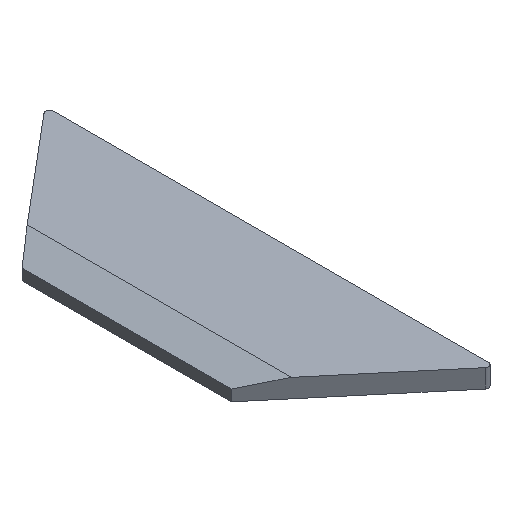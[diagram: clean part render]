
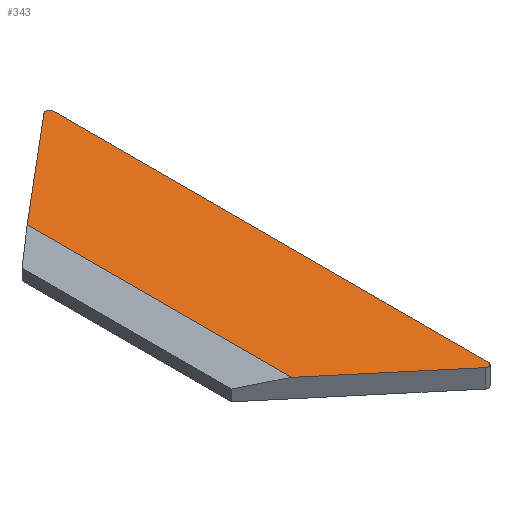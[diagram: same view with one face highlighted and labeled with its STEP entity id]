
A CAD part, isometric view. The second image highlights one B-rep face of the part: STEP entity #343.
In plain terms, the highlighted planar face has unit normal (0, 0, 1).
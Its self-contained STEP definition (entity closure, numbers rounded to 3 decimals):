
#32 = PLANE('',#33);
#33 = AXIS2_PLACEMENT_3D('',#34,#35,#36);
#34 = CARTESIAN_POINT('',(-19.,-10.,-150.5));
#35 = DIRECTION('',(0.643,0.766,-0.));
#36 = DIRECTION('',(0.766,-0.643,0.));
#83 = VERTEX_POINT('',#84);
#84 = CARTESIAN_POINT('',(-14.,-14.2,-148.5));
#97 = PLANE('',#98);
#98 = AXIS2_PLACEMENT_3D('',#99,#100,#101);
#99 = CARTESIAN_POINT('',(-20.,0.,-149.9));
#100 = DIRECTION('',(-0.227,0.,0.974));
#101 = DIRECTION('',(0.974,0.,0.227));
#108 = EDGE_CURVE('',#83,#109,#111,.T.);
#109 = VERTEX_POINT('',#110);
#110 = CARTESIAN_POINT('',(-2.657,-23.726,-148.5));
#111 = SURFACE_CURVE('',#112,(#116,#123),.PCURVE_S1.);
#112 = LINE('',#113,#114);
#113 = CARTESIAN_POINT('',(-19.,-10.,-148.5));
#114 = VECTOR('',#115,1.);
#115 = DIRECTION('',(0.766,-0.643,0.));
#116 = PCURVE('',#32,#117);
#117 = DEFINITIONAL_REPRESENTATION('',(#118),#122);
#118 = LINE('',#119,#120);
#119 = CARTESIAN_POINT('',(0.,-2.));
#120 = VECTOR('',#121,1.);
#121 = DIRECTION('',(1.,0.));
#122 = ( GEOMETRIC_REPRESENTATION_CONTEXT(2) 
PARAMETRIC_REPRESENTATION_CONTEXT() REPRESENTATION_CONTEXT('2D SPACE',''
  ) );
#123 = PCURVE('',#124,#129);
#124 = PLANE('',#125);
#125 = AXIS2_PLACEMENT_3D('',#126,#127,#128);
#126 = CARTESIAN_POINT('',(-8.351,0.,-148.5));
#127 = DIRECTION('',(0.,0.,1.));
#128 = DIRECTION('',(1.,0.,-0.));
#129 = DEFINITIONAL_REPRESENTATION('',(#130),#134);
#130 = LINE('',#131,#132);
#131 = CARTESIAN_POINT('',(-10.649,-10.));
#132 = VECTOR('',#133,1.);
#133 = DIRECTION('',(0.766,-0.643));
#134 = ( GEOMETRIC_REPRESENTATION_CONTEXT(2) 
PARAMETRIC_REPRESENTATION_CONTEXT() REPRESENTATION_CONTEXT('2D SPACE',''
  ) );
#150 = CYLINDRICAL_SURFACE('',#151,0.4);
#151 = AXIS2_PLACEMENT_3D('',#152,#153,#154);
#152 = CARTESIAN_POINT('',(-2.4,-23.42,-150.5));
#153 = DIRECTION('',(0.,0.,1.));
#154 = DIRECTION('',(-0.643,-0.766,0.));
#227 = PLANE('',#228);
#228 = AXIS2_PLACEMENT_3D('',#229,#230,#231);
#229 = CARTESIAN_POINT('',(-2.,-24.279,-150.5));
#230 = DIRECTION('',(-1.,0.,0.));
#231 = DIRECTION('',(0.,1.,0.));
#256 = CYLINDRICAL_SURFACE('',#257,0.4);
#257 = AXIS2_PLACEMENT_3D('',#258,#259,#260);
#258 = CARTESIAN_POINT('',(-2.4,23.42,-150.5));
#259 = DIRECTION('',(0.,0.,1.));
#260 = DIRECTION('',(1.,0.,-0.));
#282 = PLANE('',#283);
#283 = AXIS2_PLACEMENT_3D('',#284,#285,#286);
#284 = CARTESIAN_POINT('',(-2.,24.279,-150.5));
#285 = DIRECTION('',(0.643,-0.766,0.));
#286 = DIRECTION('',(-0.766,-0.643,0.));
#299 = VERTEX_POINT('',#300);
#300 = CARTESIAN_POINT('',(-2.,-23.42,-148.5));
#321 = EDGE_CURVE('',#109,#299,#322,.T.);
#322 = SURFACE_CURVE('',#323,(#328,#335),.PCURVE_S1.);
#323 = CIRCLE('',#324,0.4);
#324 = AXIS2_PLACEMENT_3D('',#325,#326,#327);
#325 = CARTESIAN_POINT('',(-2.4,-23.42,-148.5));
#326 = DIRECTION('',(0.,0.,1.));
#327 = DIRECTION('',(0.,-1.,0.));
#328 = PCURVE('',#150,#329);
#329 = DEFINITIONAL_REPRESENTATION('',(#330),#334);
#330 = LINE('',#331,#332);
#331 = CARTESIAN_POINT('',(-5.585,2.));
#332 = VECTOR('',#333,1.);
#333 = DIRECTION('',(1.,0.));
#334 = ( GEOMETRIC_REPRESENTATION_CONTEXT(2) 
PARAMETRIC_REPRESENTATION_CONTEXT() REPRESENTATION_CONTEXT('2D SPACE',''
  ) );
#335 = PCURVE('',#124,#336);
#336 = DEFINITIONAL_REPRESENTATION('',(#337),#341);
#337 = CIRCLE('',#338,0.4);
#338 = AXIS2_PLACEMENT_2D('',#339,#340);
#339 = CARTESIAN_POINT('',(5.951,-23.42));
#340 = DIRECTION('',(0.,-1.));
#341 = ( GEOMETRIC_REPRESENTATION_CONTEXT(2) 
PARAMETRIC_REPRESENTATION_CONTEXT() REPRESENTATION_CONTEXT('2D SPACE',''
  ) );
#343 = ADVANCED_FACE('',(#344),#124,.T.);
#344 = FACE_BOUND('',#345,.T.);
#345 = EDGE_LOOP('',(#346,#369,#370,#371,#394,#418));
#346 = ORIENTED_EDGE('',*,*,#347,.T.);
#347 = EDGE_CURVE('',#348,#83,#350,.T.);
#348 = VERTEX_POINT('',#349);
#349 = CARTESIAN_POINT('',(-14.,14.2,-148.5));
#350 = SURFACE_CURVE('',#351,(#355,#362),.PCURVE_S1.);
#351 = LINE('',#352,#353);
#352 = CARTESIAN_POINT('',(-14.,60.,-148.5));
#353 = VECTOR('',#354,1.);
#354 = DIRECTION('',(0.,-1.,0.));
#355 = PCURVE('',#124,#356);
#356 = DEFINITIONAL_REPRESENTATION('',(#357),#361);
#357 = LINE('',#358,#359);
#358 = CARTESIAN_POINT('',(-5.649,60.));
#359 = VECTOR('',#360,1.);
#360 = DIRECTION('',(0.,-1.));
#361 = ( GEOMETRIC_REPRESENTATION_CONTEXT(2) 
PARAMETRIC_REPRESENTATION_CONTEXT() REPRESENTATION_CONTEXT('2D SPACE',''
  ) );
#362 = PCURVE('',#97,#363);
#363 = DEFINITIONAL_REPRESENTATION('',(#364),#368);
#364 = LINE('',#365,#366);
#365 = CARTESIAN_POINT('',(6.161,60.));
#366 = VECTOR('',#367,1.);
#367 = DIRECTION('',(0.,-1.));
#368 = ( GEOMETRIC_REPRESENTATION_CONTEXT(2) 
PARAMETRIC_REPRESENTATION_CONTEXT() REPRESENTATION_CONTEXT('2D SPACE',''
  ) );
#369 = ORIENTED_EDGE('',*,*,#108,.T.);
#370 = ORIENTED_EDGE('',*,*,#321,.T.);
#371 = ORIENTED_EDGE('',*,*,#372,.T.);
#372 = EDGE_CURVE('',#299,#373,#375,.T.);
#373 = VERTEX_POINT('',#374);
#374 = CARTESIAN_POINT('',(-2.,23.42,-148.5));
#375 = SURFACE_CURVE('',#376,(#380,#387),.PCURVE_S1.);
#376 = LINE('',#377,#378);
#377 = CARTESIAN_POINT('',(-2.,-24.279,-148.5));
#378 = VECTOR('',#379,1.);
#379 = DIRECTION('',(0.,1.,0.));
#380 = PCURVE('',#124,#381);
#381 = DEFINITIONAL_REPRESENTATION('',(#382),#386);
#382 = LINE('',#383,#384);
#383 = CARTESIAN_POINT('',(6.351,-24.279));
#384 = VECTOR('',#385,1.);
#385 = DIRECTION('',(0.,1.));
#386 = ( GEOMETRIC_REPRESENTATION_CONTEXT(2) 
PARAMETRIC_REPRESENTATION_CONTEXT() REPRESENTATION_CONTEXT('2D SPACE',''
  ) );
#387 = PCURVE('',#227,#388);
#388 = DEFINITIONAL_REPRESENTATION('',(#389),#393);
#389 = LINE('',#390,#391);
#390 = CARTESIAN_POINT('',(0.,-2.));
#391 = VECTOR('',#392,1.);
#392 = DIRECTION('',(1.,0.));
#393 = ( GEOMETRIC_REPRESENTATION_CONTEXT(2) 
PARAMETRIC_REPRESENTATION_CONTEXT() REPRESENTATION_CONTEXT('2D SPACE',''
  ) );
#394 = ORIENTED_EDGE('',*,*,#395,.T.);
#395 = EDGE_CURVE('',#373,#396,#398,.T.);
#396 = VERTEX_POINT('',#397);
#397 = CARTESIAN_POINT('',(-2.657,23.726,-148.5));
#398 = SURFACE_CURVE('',#399,(#404,#411),.PCURVE_S1.);
#399 = CIRCLE('',#400,0.4);
#400 = AXIS2_PLACEMENT_3D('',#401,#402,#403);
#401 = CARTESIAN_POINT('',(-2.4,23.42,-148.5));
#402 = DIRECTION('',(0.,0.,1.));
#403 = DIRECTION('',(0.,-1.,0.));
#404 = PCURVE('',#124,#405);
#405 = DEFINITIONAL_REPRESENTATION('',(#406),#410);
#406 = CIRCLE('',#407,0.4);
#407 = AXIS2_PLACEMENT_2D('',#408,#409);
#408 = CARTESIAN_POINT('',(5.951,23.42));
#409 = DIRECTION('',(0.,-1.));
#410 = ( GEOMETRIC_REPRESENTATION_CONTEXT(2) 
PARAMETRIC_REPRESENTATION_CONTEXT() REPRESENTATION_CONTEXT('2D SPACE',''
  ) );
#411 = PCURVE('',#256,#412);
#412 = DEFINITIONAL_REPRESENTATION('',(#413),#417);
#413 = LINE('',#414,#415);
#414 = CARTESIAN_POINT('',(-1.571,2.));
#415 = VECTOR('',#416,1.);
#416 = DIRECTION('',(1.,0.));
#417 = ( GEOMETRIC_REPRESENTATION_CONTEXT(2) 
PARAMETRIC_REPRESENTATION_CONTEXT() REPRESENTATION_CONTEXT('2D SPACE',''
  ) );
#418 = ORIENTED_EDGE('',*,*,#419,.T.);
#419 = EDGE_CURVE('',#396,#348,#420,.T.);
#420 = SURFACE_CURVE('',#421,(#425,#432),.PCURVE_S1.);
#421 = LINE('',#422,#423);
#422 = CARTESIAN_POINT('',(-2.,24.279,-148.5));
#423 = VECTOR('',#424,1.);
#424 = DIRECTION('',(-0.766,-0.643,0.));
#425 = PCURVE('',#124,#426);
#426 = DEFINITIONAL_REPRESENTATION('',(#427),#431);
#427 = LINE('',#428,#429);
#428 = CARTESIAN_POINT('',(6.351,24.279));
#429 = VECTOR('',#430,1.);
#430 = DIRECTION('',(-0.766,-0.643));
#431 = ( GEOMETRIC_REPRESENTATION_CONTEXT(2) 
PARAMETRIC_REPRESENTATION_CONTEXT() REPRESENTATION_CONTEXT('2D SPACE',''
  ) );
#432 = PCURVE('',#282,#433);
#433 = DEFINITIONAL_REPRESENTATION('',(#434),#438);
#434 = LINE('',#435,#436);
#435 = CARTESIAN_POINT('',(0.,-2.));
#436 = VECTOR('',#437,1.);
#437 = DIRECTION('',(1.,0.));
#438 = ( GEOMETRIC_REPRESENTATION_CONTEXT(2) 
PARAMETRIC_REPRESENTATION_CONTEXT() REPRESENTATION_CONTEXT('2D SPACE',''
  ) );
